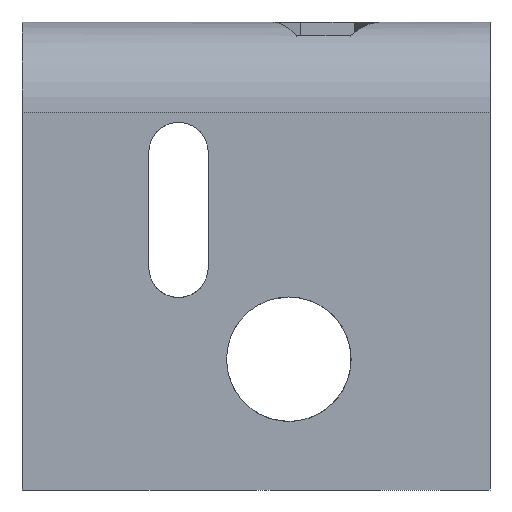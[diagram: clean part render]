
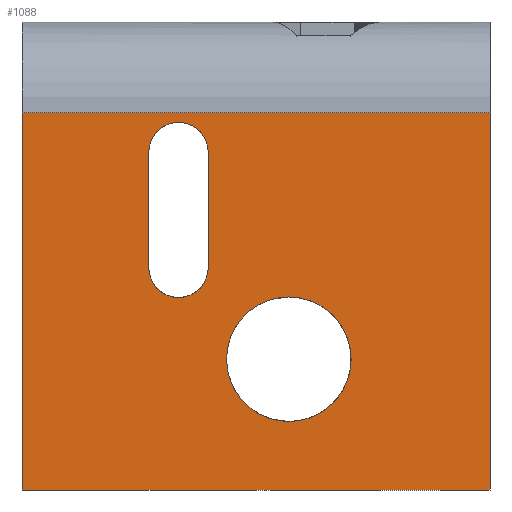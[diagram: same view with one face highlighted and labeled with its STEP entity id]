
A CAD part, left-side view. The second image highlights one B-rep face of the part: STEP entity #1088.
In plain terms, the highlighted planar face has unit normal (-1, 0, 0).
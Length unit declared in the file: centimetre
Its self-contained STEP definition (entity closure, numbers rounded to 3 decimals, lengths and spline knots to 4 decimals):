
#48 = CARTESIAN_POINT ( 'NONE',  ( 0., 729.1441, 721.8607 ) ) ;
#69 = DIRECTION ( 'NONE',  ( 1., 0., 0. ) ) ;
#74 = CARTESIAN_POINT ( 'NONE',  ( 0., 1000., 0. ) ) ;
#96 = AXIS2_PLACEMENT_3D ( 'NONE', #449, #537, #181 ) ;
#97 = EDGE_CURVE ( 'NONE', #544, #631, #1254, .T. ) ;
#115 = DIRECTION ( 'NONE',  ( 0., 0., -1. ) ) ;
#121 = CARTESIAN_POINT ( 'NONE',  ( 0., 665.5844, 474.9114 ) ) ;
#125 = ORIENTED_EDGE ( 'NONE', *, *, #1112, .T. ) ;
#132 = EDGE_LOOP ( 'NONE', ( #787, #1350, #125, #636, #764 ) ) ;
#138 = ORIENTED_EDGE ( 'NONE', *, *, #1103, .F. ) ;
#166 = AXIS2_PLACEMENT_3D ( 'NONE', #312, #1037, #1140 ) ;
#181 = DIRECTION ( 'NONE',  ( 0., 0., 1. ) ) ;
#188 = CARTESIAN_POINT ( 'NONE',  ( 0., 602.0247, 721.8607 ) ) ;
#192 = EDGE_LOOP ( 'NONE', ( #515, #763 ) ) ;
#229 = FACE_BOUND ( 'NONE', #192, .T. ) ;
#254 = VERTEX_POINT ( 'NONE', #802 ) ;
#255 = CARTESIAN_POINT ( 'NONE',  ( 0., 729.1441, 474.9114 ) ) ;
#257 = CARTESIAN_POINT ( 'NONE',  ( 0., 0., 0. ) ) ;
#312 = CARTESIAN_POINT ( 'NONE',  ( 0., 429.8205, 279.4534 ) ) ;
#386 = CARTESIAN_POINT ( 'NONE',  ( 0., 429.8205, 279.4534 ) ) ;
#431 = EDGE_CURVE ( 'NONE', #1105, #926, #1000, .T. ) ;
#440 = DIRECTION ( 'NONE',  ( 0., 0., -1. ) ) ;
#449 = CARTESIAN_POINT ( 'NONE',  ( 0., 665.5844, 474.9114 ) ) ;
#479 = EDGE_CURVE ( 'NONE', #750, #544, #1244, .T. ) ;
#515 = ORIENTED_EDGE ( 'NONE', *, *, #431, .T. ) ;
#537 = DIRECTION ( 'NONE',  ( 1., 0., 0. ) ) ;
#539 = CIRCLE ( 'NONE', #166, 133.0744 ) ;
#544 = VERTEX_POINT ( 'NONE', #547 ) ;
#547 = CARTESIAN_POINT ( 'NONE',  ( 0., 729.1441, 721.8607 ) ) ;
#596 = CARTESIAN_POINT ( 'NONE',  ( 0., 602.0247, 474.9114 ) ) ;
#604 = DIRECTION ( 'NONE',  ( 0., 0., -1. ) ) ;
#631 = VERTEX_POINT ( 'NONE', #188 ) ;
#636 = ORIENTED_EDGE ( 'NONE', *, *, #479, .T. ) ;
#641 = DIRECTION ( 'NONE',  ( 0., 0., 1. ) ) ;
#658 = DIRECTION ( 'NONE',  ( 0., 1., 0. ) ) ;
#661 = VERTEX_POINT ( 'NONE', #1421 ) ;
#671 = CARTESIAN_POINT ( 'NONE',  ( 0., 665.5844, 721.8607 ) ) ;
#680 = DIRECTION ( 'NONE',  ( 0., 0., 1. ) ) ;
#683 = FACE_BOUND ( 'NONE', #132, .T. ) ;
#685 = LINE ( 'NONE', #801, #1048 ) ;
#710 = LINE ( 'NONE', #1287, #1504 ) ;
#718 = LINE ( 'NONE', #596, #1174 ) ;
#721 = CARTESIAN_POINT ( 'NONE',  ( 0., 429.8205, 412.5278 ) ) ;
#750 = VERTEX_POINT ( 'NONE', #255 ) ;
#751 = CIRCLE ( 'NONE', #96, 63.5597 ) ;
#763 = ORIENTED_EDGE ( 'NONE', *, *, #1424, .T. ) ;
#764 = ORIENTED_EDGE ( 'NONE', *, *, #97, .T. ) ;
#787 = ORIENTED_EDGE ( 'NONE', *, *, #1152, .T. ) ;
#792 = CARTESIAN_POINT ( 'NONE',  ( 0., 1000., 1000. ) ) ;
#801 = CARTESIAN_POINT ( 'NONE',  ( 0., 1000., 805.6448 ) ) ;
#802 = CARTESIAN_POINT ( 'NONE',  ( 0., 602.0247, 474.9114 ) ) ;
#815 = CARTESIAN_POINT ( 'NONE',  ( 0., 0., 1000. ) ) ;
#843 = ORIENTED_EDGE ( 'NONE', *, *, #1436, .T. ) ;
#844 = CARTESIAN_POINT ( 'NONE',  ( 0., 1000., 805.6448 ) ) ;
#879 = DIRECTION ( 'NONE',  ( 1., 0., 0. ) ) ;
#925 = AXIS2_PLACEMENT_3D ( 'NONE', #121, #928, #935 ) ;
#926 = VERTEX_POINT ( 'NONE', #721 ) ;
#928 = DIRECTION ( 'NONE',  ( 1., 0., 0. ) ) ;
#931 = LINE ( 'NONE', #792, #968 ) ;
#935 = DIRECTION ( 'NONE',  ( 0., 0., 1. ) ) ;
#943 = DIRECTION ( 'NONE',  ( 1., 0., 0. ) ) ;
#952 = PLANE ( 'NONE',  #1356 ) ;
#968 = VECTOR ( 'NONE', #1149, 100. ) ;
#996 = ORIENTED_EDGE ( 'NONE', *, *, #1514, .T. ) ;
#1000 = CIRCLE ( 'NONE', #1363, 133.0744 ) ;
#1021 = EDGE_CURVE ( 'NONE', #1372, #1162, #710, .T. ) ;
#1027 = VECTOR ( 'NONE', #641, 100. ) ;
#1037 = DIRECTION ( 'NONE',  ( 1., 0., 0. ) ) ;
#1048 = VECTOR ( 'NONE', #658, 100. ) ;
#1088 = ADVANCED_FACE ( 'NONE', ( #683, #229, #1165 ), #952, .F. ) ;
#1103 = EDGE_CURVE ( 'NONE', #1495, #1162, #1317, .T. ) ;
#1105 = VERTEX_POINT ( 'NONE', #1420 ) ;
#1112 = EDGE_CURVE ( 'NONE', #661, #750, #1277, .T. ) ;
#1121 = EDGE_LOOP ( 'NONE', ( #138, #843, #996, #1385 ) ) ;
#1140 = DIRECTION ( 'NONE',  ( 0., 0., -1. ) ) ;
#1149 = DIRECTION ( 'NONE',  ( 0., 0., -1. ) ) ;
#1152 = EDGE_CURVE ( 'NONE', #631, #254, #718, .T. ) ;
#1162 = VERTEX_POINT ( 'NONE', #257 ) ;
#1165 = FACE_OUTER_BOUND ( 'NONE', #1121, .T. ) ;
#1174 = VECTOR ( 'NONE', #604, 100. ) ;
#1197 = VECTOR ( 'NONE', #115, 100. ) ;
#1215 = VERTEX_POINT ( 'NONE', #844 ) ;
#1244 = LINE ( 'NONE', #48, #1027 ) ;
#1254 = CIRCLE ( 'NONE', #1434, 63.5597 ) ;
#1277 = CIRCLE ( 'NONE', #925, 63.5597 ) ;
#1287 = CARTESIAN_POINT ( 'NONE',  ( 0., 1000., 0. ) ) ;
#1289 = CARTESIAN_POINT ( 'NONE',  ( 0., 0., 805.6448 ) ) ;
#1317 = LINE ( 'NONE', #815, #1197 ) ;
#1350 = ORIENTED_EDGE ( 'NONE', *, *, #1484, .T. ) ;
#1356 = AXIS2_PLACEMENT_3D ( 'NONE', #1533, #943, #440 ) ;
#1363 = AXIS2_PLACEMENT_3D ( 'NONE', #386, #879, #1485 ) ;
#1372 = VERTEX_POINT ( 'NONE', #74 ) ;
#1385 = ORIENTED_EDGE ( 'NONE', *, *, #1021, .T. ) ;
#1420 = CARTESIAN_POINT ( 'NONE',  ( 0., 429.8205, 146.3791 ) ) ;
#1421 = CARTESIAN_POINT ( 'NONE',  ( 0., 665.5844, 411.3517 ) ) ;
#1424 = EDGE_CURVE ( 'NONE', #926, #1105, #539, .T. ) ;
#1427 = DIRECTION ( 'NONE',  ( 0., -1., 0. ) ) ;
#1434 = AXIS2_PLACEMENT_3D ( 'NONE', #671, #69, #680 ) ;
#1436 = EDGE_CURVE ( 'NONE', #1495, #1215, #685, .T. ) ;
#1484 = EDGE_CURVE ( 'NONE', #254, #661, #751, .T. ) ;
#1485 = DIRECTION ( 'NONE',  ( 0., 0., -1. ) ) ;
#1495 = VERTEX_POINT ( 'NONE', #1289 ) ;
#1504 = VECTOR ( 'NONE', #1427, 100. ) ;
#1514 = EDGE_CURVE ( 'NONE', #1215, #1372, #931, .T. ) ;
#1533 = CARTESIAN_POINT ( 'NONE',  ( 0., 1000., 1000. ) ) ;
